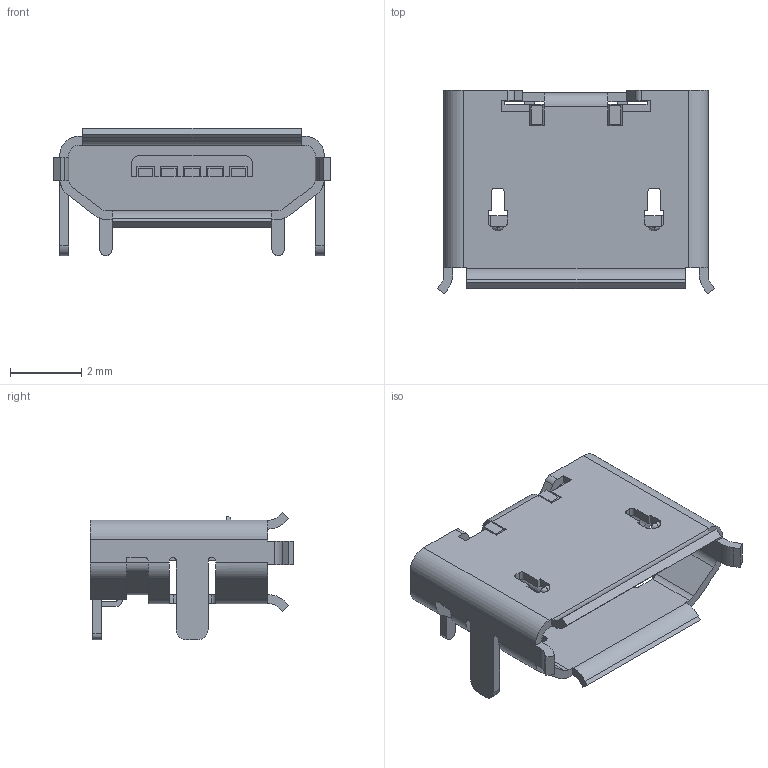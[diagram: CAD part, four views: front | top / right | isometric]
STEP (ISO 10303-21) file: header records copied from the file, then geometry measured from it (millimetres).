
FILE_DESCRIPTION (( 'STEP AP214' ), '1' );
FILE_NAME ('MICRO-USB-SMD_HMT-MICRO-USB-B.STEP', '2025-12-17T12:23:48', ( '' ), ( '' ), 'SwSTEP 2.0', 'SolidWorks 2020', '' );
FILE_SCHEMA (( 'AUTOMOTIVE_DESIGN' ));
Length unit declared in the file: millimetre
Products named in the file (1): MICRO-USB-SMD_HMT-MICRO-USB-B
Bounding box: 7.81 x 5.73 x 3.6 mm (x, y, z)
Volume: 44.7 mm3; surface area: 287.6 mm2
Topology: 15 solids, 15 shells, 557 faces, 1571 edges, 1044 vertices
Faces by surface type: plane 372, bspline 98, cylinder 83, torus 4
Entity records: 24780 total; most frequent: CARTESIAN_POINT 4539, ORIENTED_EDGE 3142, DIRECTION 2467, EDGE_CURVE 1571, VECTOR 1187, LINE 1187, VERTEX_POINT 1044, AXIS2_PLACEMENT_3D 640
